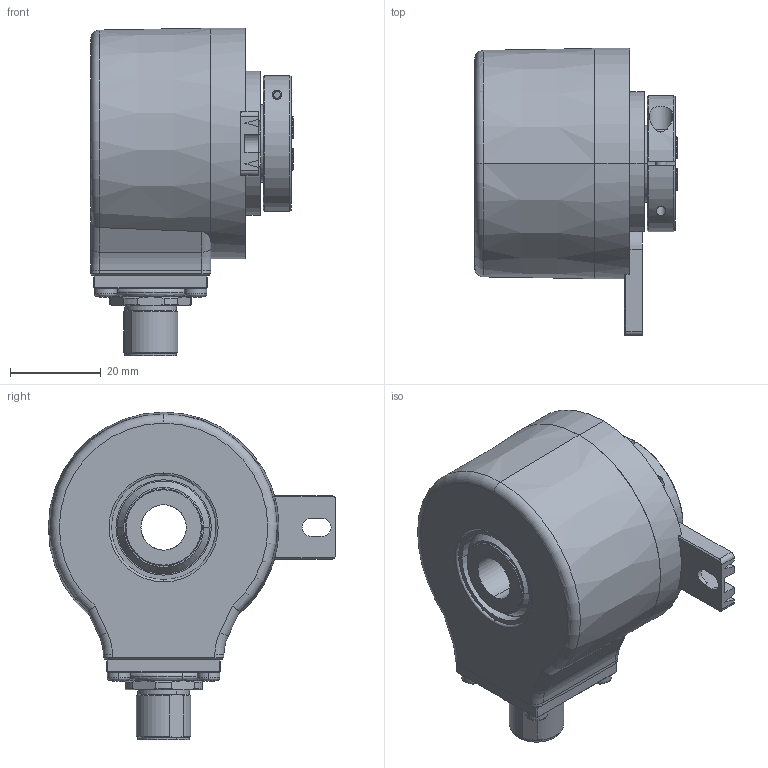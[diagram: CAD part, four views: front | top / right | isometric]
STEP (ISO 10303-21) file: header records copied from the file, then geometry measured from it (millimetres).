
FILE_DESCRIPTION (( 'STEP AP203' ), '1' );
FILE_NAME ('8.5020.237R.XXXX.STEP', '2017-04-05T11:41:41', ( '' ), ( '' ), 'SwSTEP 2.0', 'SolidWorks 2017', '' );
FILE_SCHEMA (( 'CONFIG_CONTROL_DESIGN' ));
Length unit declared in the file: millimetre
Products named in the file (1): 8.5020.237R.XXXX
Bounding box: 44.7 x 63.3 x 72.2 mm (x, y, z)
Surface area: 38505.3 mm2 (no closed solid volume)
Topology: 0 solids, 24 shells, 820 faces, 2009 edges, 1239 vertices
Faces by surface type: plane 288, cylinder 251, cone 138, torus 69, sphere 48, bspline 26
Entity records: 25916 total; most frequent: CARTESIAN_POINT 6890, DIRECTION 4152, ORIENTED_EDGE 3794, EDGE_CURVE 1905, AXIS2_PLACEMENT_3D 1679, VERTEX_POINT 1185, EDGE_LOOP 954, CIRCLE 884
